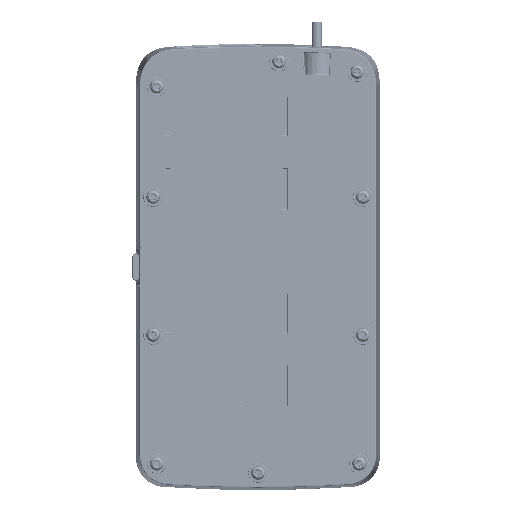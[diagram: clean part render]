
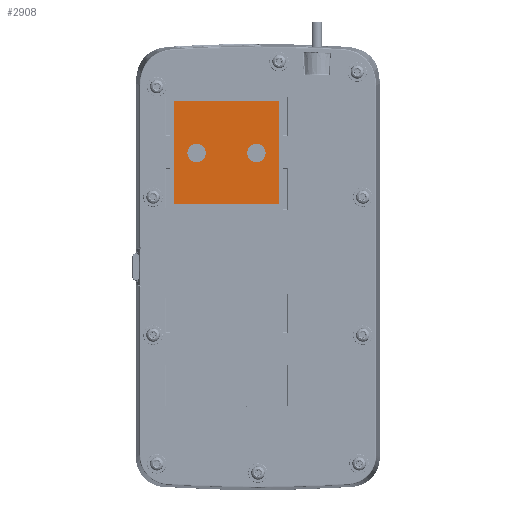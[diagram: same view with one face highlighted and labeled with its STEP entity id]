
A CAD part, front view. The second image highlights one B-rep face of the part: STEP entity #2908.
In plain terms, the highlighted planar face has unit normal (0, -1, 0).
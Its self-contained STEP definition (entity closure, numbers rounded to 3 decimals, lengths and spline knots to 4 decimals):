
#487 = DIRECTION ( 'NONE',  ( -1., 0., 0. ) ) ;
#2908 = ADVANCED_FACE ( 'NONE', ( #84897, #37906, #70949 ), #52038, .F. ) ;
#4004 = DIRECTION ( 'NONE',  ( 0., 0., 1. ) ) ;
#4188 = CARTESIAN_POINT ( 'NONE',  ( 0.4501, -2.2559, 3.563 ) ) ;
#7581 = CARTESIAN_POINT ( 'NONE',  ( 0.0673, -2.2559, 0.7087 ) ) ;
#7842 = DIRECTION ( 'NONE',  ( 0., 0., 1. ) ) ;
#10638 = DIRECTION ( 'NONE',  ( 1., 0., 0. ) ) ;
#13267 = EDGE_LOOP ( 'NONE', ( #71602, #45152 ) ) ;
#15051 = CARTESIAN_POINT ( 'NONE',  ( -0.0322, -2.2559, 2.4409 ) ) ;
#16730 = DIRECTION ( 'NONE',  ( 0., 0., -1. ) ) ;
#19825 = CARTESIAN_POINT ( 'NONE',  ( -0.0322, -2.2559, 2.4409 ) ) ;
#21083 = CARTESIAN_POINT ( 'NONE',  ( -0.0322, -2.2559, 2.2441 ) ) ;
#22703 = LINE ( 'NONE', #111442, #86933 ) ;
#22935 = CARTESIAN_POINT ( 'NONE',  ( 0.4501, -2.2559, 1.3583 ) ) ;
#23185 = EDGE_LOOP ( 'NONE', ( #38440, #83672 ) ) ;
#24112 = CIRCLE ( 'NONE', #47066, 0.1969 ) ;
#27874 = CIRCLE ( 'NONE', #84299, 0.1969 ) ;
#29449 = EDGE_CURVE ( 'NONE', #123205, #81315, #27874, .T. ) ;
#30502 = CARTESIAN_POINT ( 'NONE',  ( -1.3117, -2.2559, 2.4409 ) ) ;
#33021 = CIRCLE ( 'NONE', #119526, 0.1969 ) ;
#35641 = VERTEX_POINT ( 'NONE', #22935 ) ;
#37906 = FACE_BOUND ( 'NONE', #23185, .T. ) ;
#38440 = ORIENTED_EDGE ( 'NONE', *, *, #39246, .F. ) ;
#38636 = VERTEX_POINT ( 'NONE', #52939 ) ;
#39246 = EDGE_CURVE ( 'NONE', #81315, #123205, #33021, .T. ) ;
#40138 = VECTOR ( 'NONE', #16730, 39.3701 ) ;
#43411 = DIRECTION ( 'NONE',  ( 0., 0., 1. ) ) ;
#45152 = ORIENTED_EDGE ( 'NONE', *, *, #58325, .F. ) ;
#45379 = VERTEX_POINT ( 'NONE', #4188 ) ;
#47066 = AXIS2_PLACEMENT_3D ( 'NONE', #19825, #76056, #97901 ) ;
#49630 = CARTESIAN_POINT ( 'NONE',  ( 0.4501, -2.2559, 2.815 ) ) ;
#49910 = VERTEX_POINT ( 'NONE', #140432 ) ;
#50640 = ORIENTED_EDGE ( 'NONE', *, *, #69224, .F. ) ;
#51916 = EDGE_CURVE ( 'NONE', #35641, #49910, #22703, .T. ) ;
#52038 = PLANE ( 'NONE',  #119683 ) ;
#52939 = CARTESIAN_POINT ( 'NONE',  ( -0.0322, -2.2559, 2.6378 ) ) ;
#56663 = CARTESIAN_POINT ( 'NONE',  ( -1.3117, -2.2559, 2.4409 ) ) ;
#58325 = EDGE_CURVE ( 'NONE', #124314, #38636, #24112, .T. ) ;
#59729 = CARTESIAN_POINT ( 'NONE',  ( -1.794, -2.2559, 3.563 ) ) ;
#59908 = VERTEX_POINT ( 'NONE', #59729 ) ;
#61138 = AXIS2_PLACEMENT_3D ( 'NONE', #15051, #80060, #4004 ) ;
#61359 = ORIENTED_EDGE ( 'NONE', *, *, #125622, .F. ) ;
#64334 = LINE ( 'NONE', #77047, #131869 ) ;
#66958 = EDGE_LOOP ( 'NONE', ( #122212, #61359, #50640, #92288 ) ) ;
#69224 = EDGE_CURVE ( 'NONE', #49910, #59908, #69364, .T. ) ;
#69364 = LINE ( 'NONE', #110873, #102356 ) ;
#70949 = FACE_BOUND ( 'NONE', #13267, .T. ) ;
#71602 = ORIENTED_EDGE ( 'NONE', *, *, #81787, .F. ) ;
#76056 = DIRECTION ( 'NONE',  ( 0., -1., 0. ) ) ;
#77047 = CARTESIAN_POINT ( 'NONE',  ( -1.9515, -2.2559, 3.563 ) ) ;
#80060 = DIRECTION ( 'NONE',  ( 0., -1., 0. ) ) ;
#81315 = VERTEX_POINT ( 'NONE', #113681 ) ;
#81787 = EDGE_CURVE ( 'NONE', #38636, #124314, #83604, .T. ) ;
#83604 = CIRCLE ( 'NONE', #61138, 0.1969 ) ;
#83672 = ORIENTED_EDGE ( 'NONE', *, *, #29449, .F. ) ;
#84299 = AXIS2_PLACEMENT_3D ( 'NONE', #30502, #141520, #7842 ) ;
#84897 = FACE_OUTER_BOUND ( 'NONE', #66958, .T. ) ;
#85613 = DIRECTION ( 'NONE',  ( 0., 0., 1. ) ) ;
#86933 = VECTOR ( 'NONE', #487, 39.3701 ) ;
#89686 = DIRECTION ( 'NONE',  ( 0., -1., 0. ) ) ;
#92288 = ORIENTED_EDGE ( 'NONE', *, *, #51916, .F. ) ;
#97901 = DIRECTION ( 'NONE',  ( 0., 0., 1. ) ) ;
#100353 = DIRECTION ( 'NONE',  ( 0., 0., 1. ) ) ;
#102356 = VECTOR ( 'NONE', #43411, 39.3701 ) ;
#107396 = DIRECTION ( 'NONE',  ( 0., 1., 0. ) ) ;
#110873 = CARTESIAN_POINT ( 'NONE',  ( -1.794, -2.2559, 2.815 ) ) ;
#111442 = CARTESIAN_POINT ( 'NONE',  ( 0.6076, -2.2559, 1.3583 ) ) ;
#113681 = CARTESIAN_POINT ( 'NONE',  ( -1.3117, -2.2559, 2.6378 ) ) ;
#119526 = AXIS2_PLACEMENT_3D ( 'NONE', #56663, #89686, #100353 ) ;
#119683 = AXIS2_PLACEMENT_3D ( 'NONE', #7581, #107396, #85613 ) ;
#122212 = ORIENTED_EDGE ( 'NONE', *, *, #141950, .F. ) ;
#123205 = VERTEX_POINT ( 'NONE', #126589 ) ;
#124314 = VERTEX_POINT ( 'NONE', #21083 ) ;
#125622 = EDGE_CURVE ( 'NONE', #59908, #45379, #64334, .T. ) ;
#126589 = CARTESIAN_POINT ( 'NONE',  ( -1.3117, -2.2559, 2.2441 ) ) ;
#128599 = LINE ( 'NONE', #49630, #40138 ) ;
#131869 = VECTOR ( 'NONE', #10638, 39.3701 ) ;
#140432 = CARTESIAN_POINT ( 'NONE',  ( -1.794, -2.2559, 1.3583 ) ) ;
#141520 = DIRECTION ( 'NONE',  ( 0., -1., 0. ) ) ;
#141950 = EDGE_CURVE ( 'NONE', #45379, #35641, #128599, .T. ) ;
